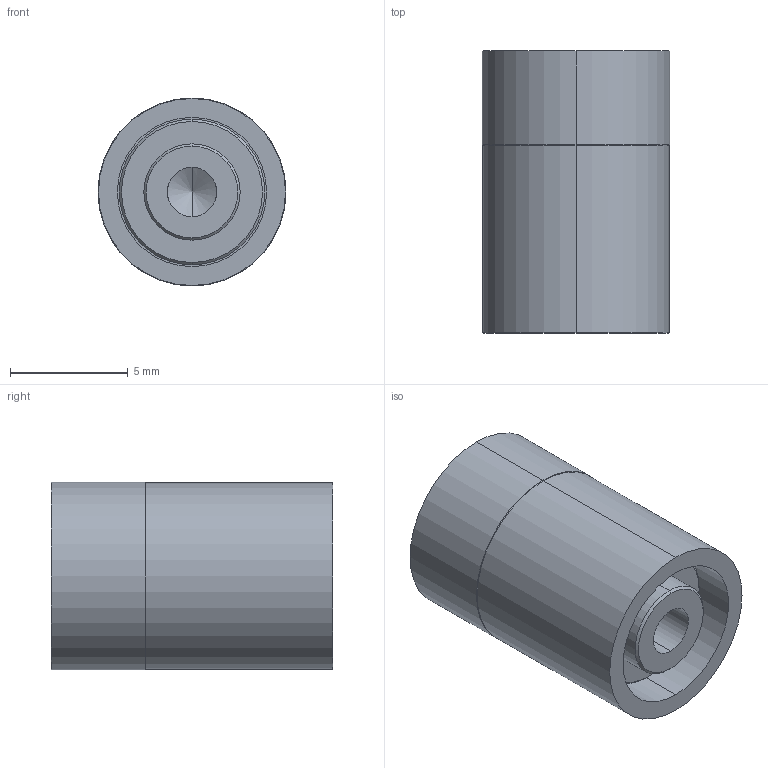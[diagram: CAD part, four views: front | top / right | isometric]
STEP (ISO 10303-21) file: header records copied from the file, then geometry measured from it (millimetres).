
FILE_DESCRIPTION (( 'STEP AP203' ), '1' );
FILE_NAME ('VA8.STEP', '2008-04-21T07:01:26', ( ' ' ), ( ' ' ), 'SwSTEP 2.0', 'SolidWorks 2005204', '' );
FILE_SCHEMA (( 'CONFIG_CONTROL_DESIGN' ));
Length unit declared in the file: millimetre
Products named in the file (1): VA8
Bounding box: 8 x 12 x 8 mm (x, y, z)
Volume: 496.7 mm3; surface area: 872.3 mm2
Topology: 2 solids, 2 shells, 42 faces, 88 edges, 53 vertices
Faces by surface type: cylinder 20, cone 14, plane 8
Entity records: 1269 total; most frequent: CARTESIAN_POINT 270, DIRECTION 208, ORIENTED_EDGE 172, AXIS2_PLACEMENT_3D 87, EDGE_CURVE 86, VERTEX_POINT 53, EDGE_LOOP 53, CIRCLE 44
